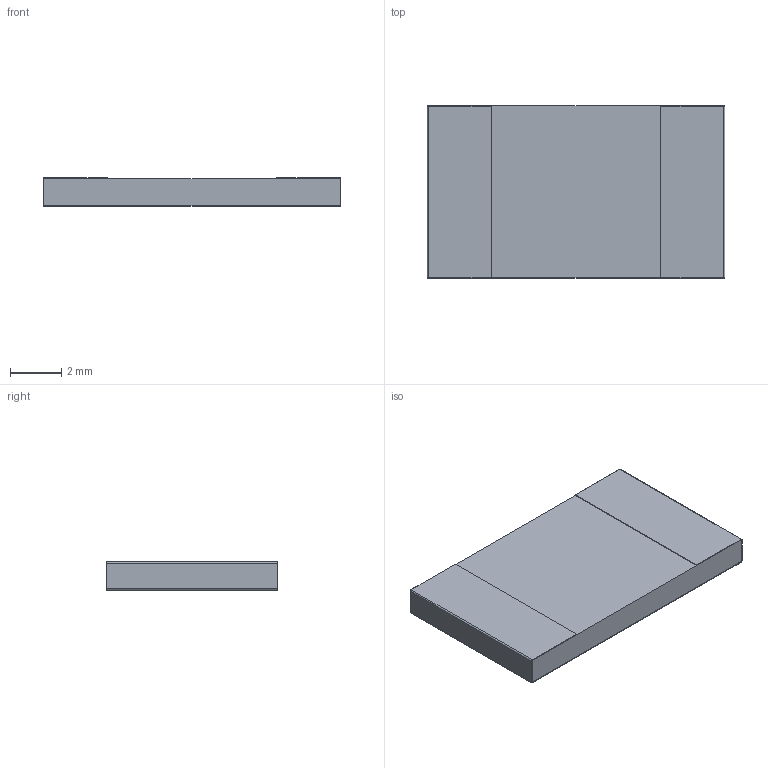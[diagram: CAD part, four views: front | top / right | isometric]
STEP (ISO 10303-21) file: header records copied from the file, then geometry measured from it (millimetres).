
FILE_DESCRIPTION((''),'2;1');
FILE_NAME('C-2-2176407-4','2019-01-25T07:44:37',('workeradm'),('TE Connectivity Ltd.'),'CREO PARAMETRIC BY PTC INC, 2018190','CREO PARAMETRIC BY PTC INC, 2018190','');
FILE_SCHEMA(('AUTOMOTIVE_DESIGN { 1 0 10303 214 1 1 1 1 }'));
Length unit declared in the file: millimetre
Products named in the file (1): C-2-2176407-4
Bounding box: 11.6 x 6.7 x 1.1 mm (x, y, z)
Volume: 84.1 mm3; surface area: 195.9 mm2
Topology: 1 solids, 1 shells, 39 faces, 108 edges, 72 vertices
Faces by surface type: plane 27, cylinder 12
Entity records: 1290 total; most frequent: CARTESIAN_POINT 221, ORIENTED_EDGE 216, DIRECTION 210, EDGE_CURVE 108, VECTOR 84, LINE 84, VERTEX_POINT 72, AXIS2_PLACEMENT_3D 63
